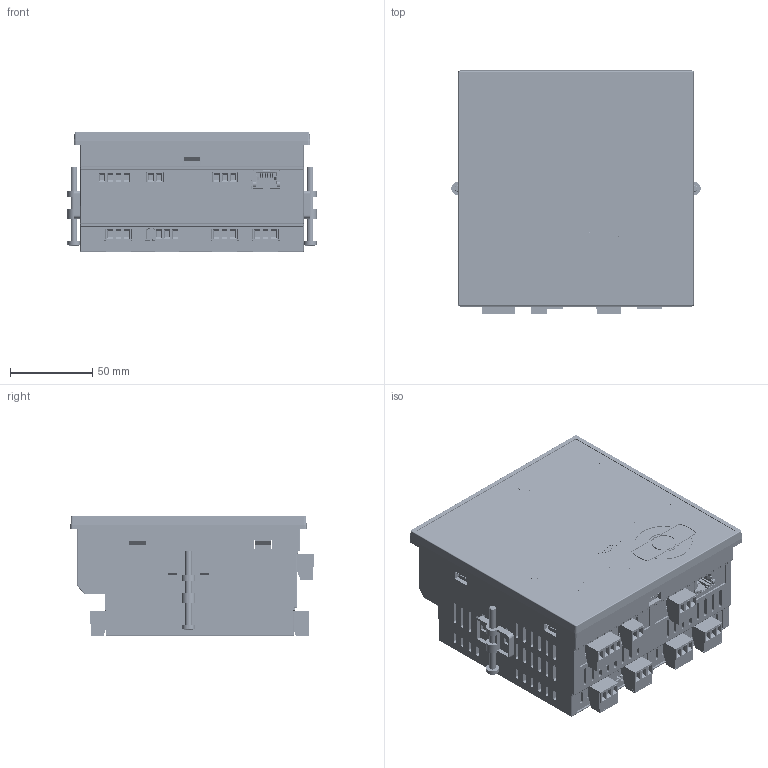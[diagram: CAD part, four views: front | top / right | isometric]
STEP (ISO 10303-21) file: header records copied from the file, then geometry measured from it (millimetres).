
FILE_DESCRIPTION (( 'STEP AP214' ), '1' );
FILE_NAME ('PQ3000.STEP', '2017-02-15T06:40:04', ( '' ), ( '' ), 'SwSTEP 2.0', 'SolidWorks 2017', '' );
FILE_SCHEMA (( 'AUTOMOTIVE_DESIGN' ));
Length unit declared in the file: millimetre
Products named in the file (1): PQ3000
Bounding box: 152 x 148.25 x 73.7 mm (x, y, z)
Surface area: 287441.9 mm2 (no closed solid volume)
Topology: 0 solids, 67 shells, 8434 faces, 22930 edges, 14925 vertices
Faces by surface type: plane 6292, cylinder 1539, cone 317, bspline 244, sphere 26, torus 16
Entity records: 365071 total; most frequent: CARTESIAN_POINT 57863, ORIENTED_EDGE 45730, DIRECTION 42069, EDGE_CURVE 22880, LINE 18377, VECTOR 18377, VERTEX_POINT 14925, AXIS2_PLACEMENT_3D 11846
